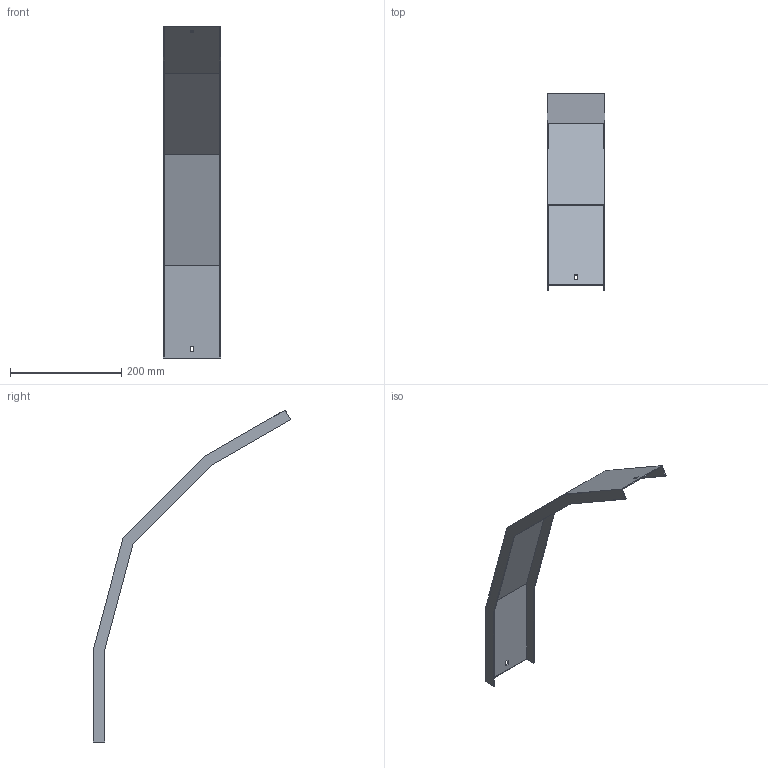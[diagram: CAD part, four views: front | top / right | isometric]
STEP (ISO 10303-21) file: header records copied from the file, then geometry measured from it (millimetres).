
FILE_DESCRIPTION (( 'STEP AP214' ), '1' );
FILE_NAME ('A2_41N3J100.step', '2025-02-21T10:40:25', ( '' ), ( '' ), 'SwSTEP 2.0', 'SolidWorks 2023', '' );
FILE_SCHEMA (( 'AUTOMOTIVE_DESIGN' ));
Length unit declared in the file: millimetre
Products named in the file (1): A2_41N3J100
Bounding box: 103 x 354.25 x 596.25 mm (x, y, z)
Volume: 155990 mm3; surface area: 210680.1 mm2
Topology: 1 solids, 1 shells, 30 faces, 84 edges, 56 vertices
Faces by surface type: plane 30
Entity records: 979 total; most frequent: CARTESIAN_POINT 171, ORIENTED_EDGE 168, DIRECTION 146, VECTOR 84, EDGE_CURVE 84, LINE 84, VERTEX_POINT 56, EDGE_LOOP 34
